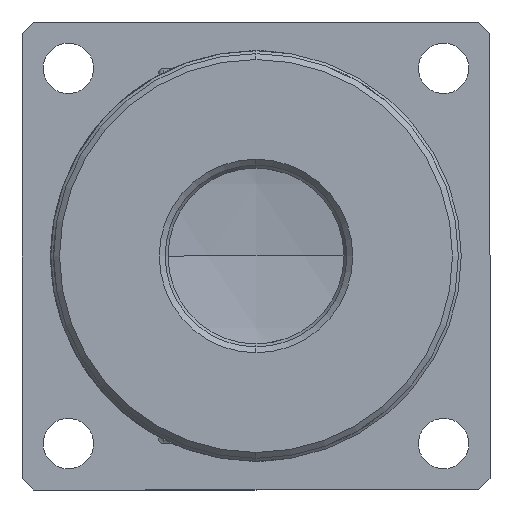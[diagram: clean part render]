
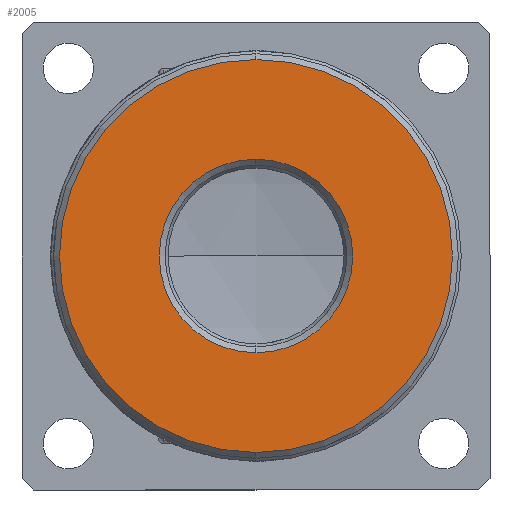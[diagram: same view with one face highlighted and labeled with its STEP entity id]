
A CAD part, left-side view. The second image highlights one B-rep face of the part: STEP entity #2005.
In plain terms, the highlighted planar face has unit normal (-1, 0, 0).
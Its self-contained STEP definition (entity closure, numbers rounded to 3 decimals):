
#60 = CIRCLE ( 'NONE', #7295, 8.25 ) ;
#259 = CARTESIAN_POINT ( 'NONE',  ( 0., 0., 0. ) ) ;
#288 = VERTEX_POINT ( 'NONE', #8990 ) ;
#510 = DIRECTION ( 'NONE',  ( -1., 0., 0. ) ) ;
#829 = ORIENTED_EDGE ( 'NONE', *, *, #6480, .T. ) ;
#1009 = DIRECTION ( 'NONE',  ( 0., 0., -1. ) ) ;
#1106 = EDGE_CURVE ( 'NONE', #1924, #1890, #6011, .T. ) ;
#1448 = DIRECTION ( 'NONE',  ( 0., 0., -1. ) ) ;
#1740 = CARTESIAN_POINT ( 'NONE',  ( 0., 0., 0. ) ) ;
#1804 = EDGE_CURVE ( 'NONE', #1890, #1924, #7503, .T. ) ;
#1890 = VERTEX_POINT ( 'NONE', #3706 ) ;
#1924 = VERTEX_POINT ( 'NONE', #5332 ) ;
#2005 = ADVANCED_FACE ( 'NONE', ( #4729, #2682 ), #7758, .F. ) ;
#2408 = DIRECTION ( 'NONE',  ( 1., 0., 0. ) ) ;
#2530 = DIRECTION ( 'NONE',  ( 0., 0., -1. ) ) ;
#2682 = FACE_OUTER_BOUND ( 'NONE', #3668, .T. ) ;
#3668 = EDGE_LOOP ( 'NONE', ( #9774, #4091 ) ) ;
#3706 = CARTESIAN_POINT ( 'NONE',  ( 0., 0., -16.75 ) ) ;
#3772 = CARTESIAN_POINT ( 'NONE',  ( 0., 0., 0. ) ) ;
#4091 = ORIENTED_EDGE ( 'NONE', *, *, #1106, .T. ) ;
#4729 = FACE_BOUND ( 'NONE', #4931, .T. ) ;
#4931 = EDGE_LOOP ( 'NONE', ( #829, #9763 ) ) ;
#5128 = CARTESIAN_POINT ( 'NONE',  ( 0., 0., 0. ) ) ;
#5332 = CARTESIAN_POINT ( 'NONE',  ( 0., 0., 16.75 ) ) ;
#5646 = DIRECTION ( 'NONE',  ( 1., 0., 0. ) ) ;
#5808 = AXIS2_PLACEMENT_3D ( 'NONE', #3772, #6097, #1448 ) ;
#5929 = DIRECTION ( 'NONE',  ( 0., 0., -1. ) ) ;
#6011 = CIRCLE ( 'NONE', #5808, 16.75 ) ;
#6097 = DIRECTION ( 'NONE',  ( -1., 0., 0. ) ) ;
#6155 = CIRCLE ( 'NONE', #9405, 8.25 ) ;
#6203 = AXIS2_PLACEMENT_3D ( 'NONE', #7056, #2408, #7843 ) ;
#6480 = EDGE_CURVE ( 'NONE', #288, #7451, #60, .T. ) ;
#6876 = EDGE_CURVE ( 'NONE', #7451, #288, #6155, .T. ) ;
#7056 = CARTESIAN_POINT ( 'NONE',  ( 0., 7.75, 0. ) ) ;
#7120 = AXIS2_PLACEMENT_3D ( 'NONE', #5128, #510, #5929 ) ;
#7173 = DIRECTION ( 'NONE',  ( 1., 0., 0. ) ) ;
#7295 = AXIS2_PLACEMENT_3D ( 'NONE', #259, #5646, #1009 ) ;
#7451 = VERTEX_POINT ( 'NONE', #7910 ) ;
#7503 = CIRCLE ( 'NONE', #7120, 16.75 ) ;
#7758 = PLANE ( 'NONE',  #6203 ) ;
#7843 = DIRECTION ( 'NONE',  ( 0., 0., -1. ) ) ;
#7910 = CARTESIAN_POINT ( 'NONE',  ( 0., 0., -8.25 ) ) ;
#8990 = CARTESIAN_POINT ( 'NONE',  ( 0., 0., 8.25 ) ) ;
#9405 = AXIS2_PLACEMENT_3D ( 'NONE', #1740, #7173, #2530 ) ;
#9763 = ORIENTED_EDGE ( 'NONE', *, *, #6876, .T. ) ;
#9774 = ORIENTED_EDGE ( 'NONE', *, *, #1804, .T. ) ;
